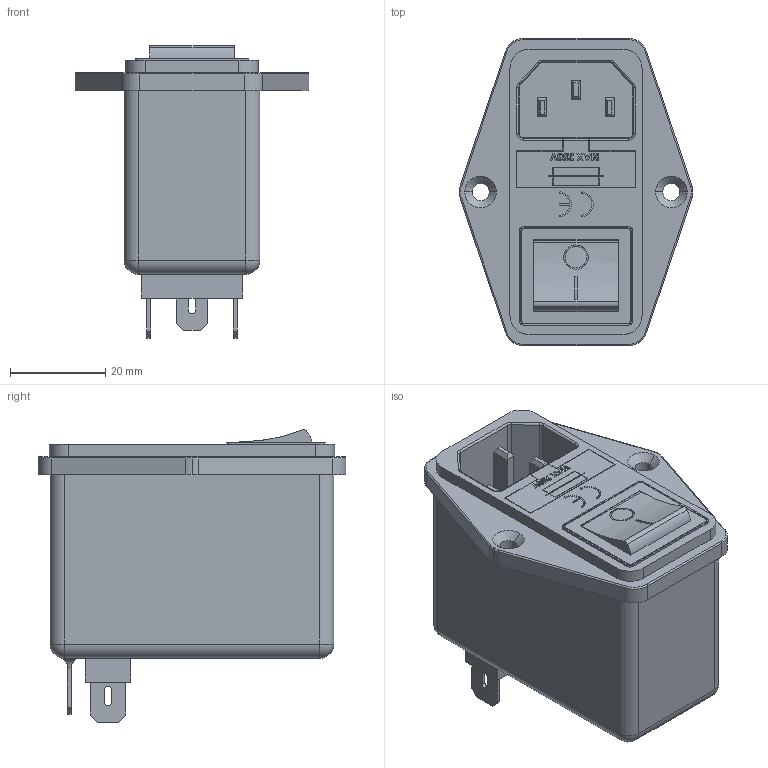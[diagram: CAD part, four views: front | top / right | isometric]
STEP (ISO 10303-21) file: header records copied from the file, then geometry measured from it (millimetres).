
FILE_DESCRIPTION (( 'STEP AP214' ), '1' );
FILE_NAME ('RIP-EMC.STEP', '2015-01-29T11:15:45', ( '' ), ( '' ), 'SwSTEP 2.0', 'SolidWorks 2014', '' );
FILE_SCHEMA (( 'AUTOMOTIVE_DESIGN' ));
Length unit declared in the file: millimetre
Products named in the file (1): RIP-EMC
Bounding box: 49.06 x 64.5 x 61.32 mm (x, y, z)
Volume: 73747.6 mm3; surface area: 15885.1 mm2
Topology: 1 solids, 1 shells, 385 faces, 985 edges, 629 vertices
Faces by surface type: plane 227, cylinder 98, bspline 31, torus 21, cone 4, sphere 4
Entity records: 17050 total; most frequent: CARTESIAN_POINT 3881, ORIENTED_EDGE 1962, DIRECTION 1833, EDGE_CURVE 981, LINE 695, VECTOR 695, VERTEX_POINT 629, AXIS2_PLACEMENT_3D 569
